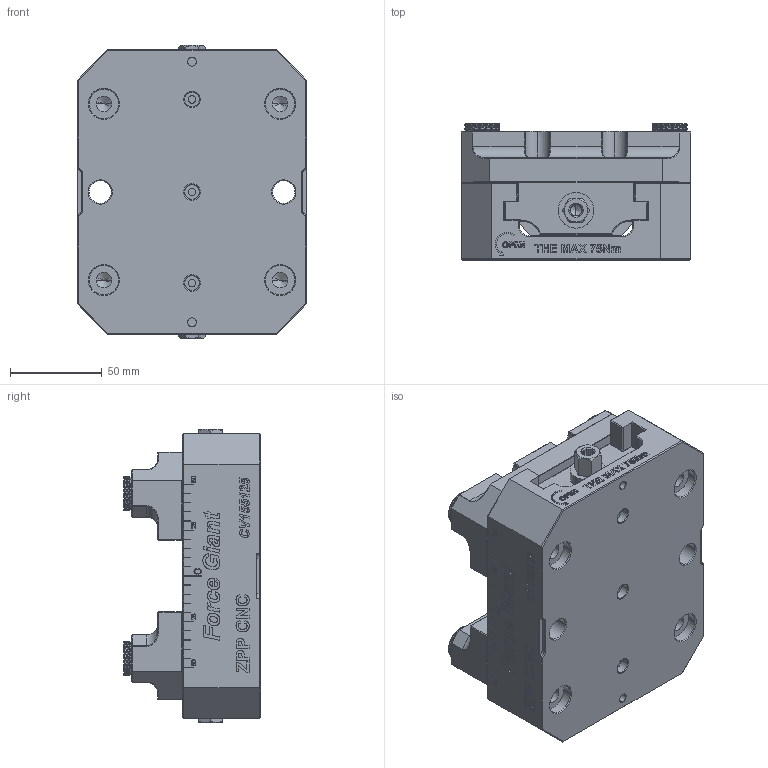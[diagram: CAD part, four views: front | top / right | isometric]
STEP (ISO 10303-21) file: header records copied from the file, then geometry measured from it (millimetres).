
FILE_DESCRIPTION((''),'2;1');
FILE_NAME('PRT0001','2024-05-08T19:40:19',('XF'),(''),'CREO PARAMETRIC BY PTC INC, 2022073','CREO PARAMETRIC BY PTC INC, 2022073','');
FILE_SCHEMA(('CONFIG_CONTROL_DESIGN'));
Products named in the file (1): PRT0001
Bounding box: 125 x 74.15 x 160 mm (x, y, z)
Volume: 860045.8 mm3; surface area: 158607 mm2
Topology: 1 solids, 51 shells, 4449 faces, 12284 edges, 8032 vertices
Faces by surface type: plane 2411, cylinder 760, extrusion 692, cone 458, torus 112, bspline 16
Entity records: 151025 total; most frequent: CARTESIAN_POINT 40488, ORIENTED_EDGE 24416, DIRECTION 20244, EDGE_CURVE 12208, VECTOR 8294, VERTEX_POINT 8032, LINE 7602, AXIS2_PLACEMENT_3D 5975
